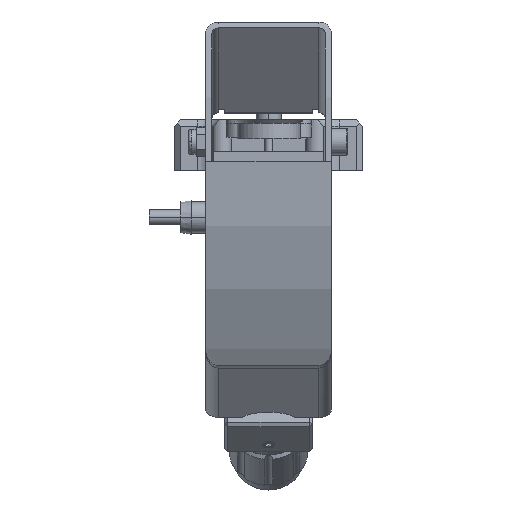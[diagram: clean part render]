
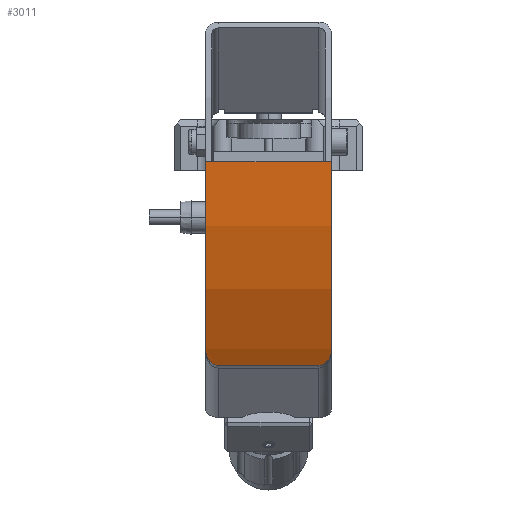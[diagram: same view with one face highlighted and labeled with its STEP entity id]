
A CAD part, front view. The second image highlights one B-rep face of the part: STEP entity #3011.
In plain terms, the highlighted cylindrical face has radius 131.5 mm (diameter 263 mm), a partial arc.
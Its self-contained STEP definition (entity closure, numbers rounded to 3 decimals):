
#365 = VECTOR ( 'NONE', #24075, 1000. ) ;
#762 = B_SPLINE_CURVE_WITH_KNOTS ( 'NONE', 3,
 ( #1239, #25185, #27345, #27511, #3874, #17943, #15794, #29196, #926, #27040, #5879, #29669, #8526, #19931, #12711, #1545, #6039, #22092, #15328, #24860 ),
 .UNSPECIFIED., .F., .F.,
 ( 4, 2, 2, 2, 2, 2, 2, 2, 2, 4 ),
 ( 0., 0.002, 0.003, 0.004, 0.005, 0.006, 0.006, 0.007, 0.007, 0.008 ),
 .UNSPECIFIED. ) ;
#926 = CARTESIAN_POINT ( 'NONE',  ( -18.738, -116.894, -60.671 ) ) ;
#1040 = CARTESIAN_POINT ( 'NONE',  ( 18.32, -116.644, -61.125 ) ) ;
#1239 = CARTESIAN_POINT ( 'NONE',  ( -20., -118.931, -56.813 ) ) ;
#1545 = CARTESIAN_POINT ( 'NONE',  ( -16.82, -116.158, -61.993 ) ) ;
#1559 = DIRECTION ( 'NONE',  ( 0., 0.94, -0.342 ) ) ;
#1698 = CARTESIAN_POINT ( 'NONE',  ( 20., -133.149, 2.635 ) ) ;
#2664 = ORIENTED_EDGE ( 'NONE', *, *, #25835, .T. ) ;
#3011 = ADVANCED_FACE ( 'NONE', ( #24755 ), #29718, .T. ) ;
#3465 = AXIS2_PLACEMENT_3D ( 'NONE', #22438, #3762, #8409 ) ;
#3762 = DIRECTION ( 'NONE',  ( -1., 0., 0. ) ) ;
#3874 = CARTESIAN_POINT ( 'NONE',  ( -19.605, -117.739, -59.109 ) ) ;
#4070 = EDGE_CURVE ( 'NONE', #18729, #25164, #7360, .T. ) ;
#5796 = CARTESIAN_POINT ( 'NONE',  ( -20., -118.931, -56.813 ) ) ;
#5879 = CARTESIAN_POINT ( 'NONE',  ( -18.092, -116.53, -61.329 ) ) ;
#6039 = CARTESIAN_POINT ( 'NONE',  ( -16.658, -116.135, -62.034 ) ) ;
#7060 = VERTEX_POINT ( 'NONE', #1698 ) ;
#7360 = B_SPLINE_CURVE_WITH_KNOTS ( 'NONE', 3,
 ( #12832, #22810, #22202, #11096, #8479, #22349, #1040, #10473, #19889, #20042, #17599, #26996, #29477, #8326, #15444, #24819 ),
 .UNSPECIFIED., .F., .F.,
 ( 4, 2, 2, 2, 2, 2, 2, 4 ),
 ( 0., 0.001, 0.002, 0.003, 0.004, 0.005, 0.006, 0.008 ),
 .UNSPECIFIED. ) ;
#7405 = EDGE_LOOP ( 'NONE', ( #15346, #10618, #2664, #17021, #12924, #8354 ) ) ;
#8030 = AXIS2_PLACEMENT_3D ( 'NONE', #25053, #8698, #18120 ) ;
#8326 = CARTESIAN_POINT ( 'NONE',  ( 19.925, -118.332, -57.985 ) ) ;
#8354 = ORIENTED_EDGE ( 'NONE', *, *, #30229, .T. ) ;
#8377 = CARTESIAN_POINT ( 'NONE',  ( -20., -1.649, 2.661 ) ) ;
#8409 = DIRECTION ( 'NONE',  ( 0., -0.94, 0.342 ) ) ;
#8479 = CARTESIAN_POINT ( 'NONE',  ( 17.565, -116.328, -61.691 ) ) ;
#8526 = CARTESIAN_POINT ( 'NONE',  ( -17.563, -116.334, -61.681 ) ) ;
#8698 = DIRECTION ( 'NONE',  ( -1., 0., 0. ) ) ;
#9012 = CIRCLE ( 'NONE', #8030, 131.5 ) ;
#9639 = DIRECTION ( 'NONE',  ( -1., 0., 0. ) ) ;
#10473 = CARTESIAN_POINT ( 'NONE',  ( 18.733, -116.891, -60.676 ) ) ;
#10618 = ORIENTED_EDGE ( 'NONE', *, *, #4070, .T. ) ;
#11096 = CARTESIAN_POINT ( 'NONE',  ( 17.28, -116.245, -61.838 ) ) ;
#12268 = EDGE_CURVE ( 'NONE', #19950, #21774, #21967, .T. ) ;
#12711 = CARTESIAN_POINT ( 'NONE',  ( -17.129, -116.217, -61.889 ) ) ;
#12832 = CARTESIAN_POINT ( 'NONE',  ( 16., -116.096, -62.102 ) ) ;
#12924 = ORIENTED_EDGE ( 'NONE', *, *, #12268, .F. ) ;
#14153 = LINE ( 'NONE', #28175, #16819 ) ;
#15213 = EDGE_CURVE ( 'NONE', #18729, #17004, #21760, .T. ) ;
#15328 = CARTESIAN_POINT ( 'NONE',  ( -16.167, -116.096, -62.102 ) ) ;
#15346 = ORIENTED_EDGE ( 'NONE', *, *, #15213, .F. ) ;
#15444 = CARTESIAN_POINT ( 'NONE',  ( 20., -118.632, -57.405 ) ) ;
#15794 = CARTESIAN_POINT ( 'NONE',  ( -19.237, -117.304, -59.92 ) ) ;
#16286 = CARTESIAN_POINT ( 'NONE',  ( -16., -116.096, -62.102 ) ) ;
#16819 = VECTOR ( 'NONE', #9639, 1000. ) ;
#17004 = VERTEX_POINT ( 'NONE', #16286 ) ;
#17021 = ORIENTED_EDGE ( 'NONE', *, *, #20072, .T. ) ;
#17599 = CARTESIAN_POINT ( 'NONE',  ( 19.37, -117.444, -59.661 ) ) ;
#17943 = CARTESIAN_POINT ( 'NONE',  ( -19.373, -117.446, -59.656 ) ) ;
#18120 = DIRECTION ( 'NONE',  ( 0., -0.94, 0.342 ) ) ;
#18729 = VERTEX_POINT ( 'NONE', #22650 ) ;
#19889 = CARTESIAN_POINT ( 'NONE',  ( 18.917, -117.026, -60.431 ) ) ;
#19931 = CARTESIAN_POINT ( 'NONE',  ( -17.277, -116.252, -61.826 ) ) ;
#19950 = VERTEX_POINT ( 'NONE', #5796 ) ;
#20042 = CARTESIAN_POINT ( 'NONE',  ( 19.235, -117.302, -59.924 ) ) ;
#20072 = EDGE_CURVE ( 'NONE', #7060, #21774, #14153, .T. ) ;
#20269 = DIRECTION ( 'NONE',  ( -1., 0., 0. ) ) ;
#21760 = LINE ( 'NONE', #22058, #365 ) ;
#21774 = VERTEX_POINT ( 'NONE', #25191 ) ;
#21967 = CIRCLE ( 'NONE', #25938, 131.5 ) ;
#22058 = CARTESIAN_POINT ( 'NONE',  ( 88.713, -116.096, -62.102 ) ) ;
#22092 = CARTESIAN_POINT ( 'NONE',  ( -16.333, -116.104, -62.088 ) ) ;
#22202 = CARTESIAN_POINT ( 'NONE',  ( 16.657, -116.127, -62.047 ) ) ;
#22349 = CARTESIAN_POINT ( 'NONE',  ( 18.089, -116.529, -61.331 ) ) ;
#22438 = CARTESIAN_POINT ( 'NONE',  ( 88.713, -1.649, 2.661 ) ) ;
#22650 = CARTESIAN_POINT ( 'NONE',  ( 16., -116.096, -62.102 ) ) ;
#22810 = CARTESIAN_POINT ( 'NONE',  ( 16.335, -116.096, -62.102 ) ) ;
#24075 = DIRECTION ( 'NONE',  ( -1., 0., 0. ) ) ;
#24755 = FACE_OUTER_BOUND ( 'NONE', #7405, .T. ) ;
#24819 = CARTESIAN_POINT ( 'NONE',  ( 20., -118.931, -56.813 ) ) ;
#24860 = CARTESIAN_POINT ( 'NONE',  ( -16., -116.096, -62.102 ) ) ;
#25053 = CARTESIAN_POINT ( 'NONE',  ( 20., -1.649, 2.661 ) ) ;
#25164 = VERTEX_POINT ( 'NONE', #26983 ) ;
#25185 = CARTESIAN_POINT ( 'NONE',  ( -20., -118.631, -57.405 ) ) ;
#25191 = CARTESIAN_POINT ( 'NONE',  ( -20., -133.149, 2.635 ) ) ;
#25835 = EDGE_CURVE ( 'NONE', #25164, #7060, #9012, .T. ) ;
#25938 = AXIS2_PLACEMENT_3D ( 'NONE', #8377, #20269, #1559 ) ;
#26983 = CARTESIAN_POINT ( 'NONE',  ( 20., -118.931, -56.813 ) ) ;
#26996 = CARTESIAN_POINT ( 'NONE',  ( 19.601, -117.733, -59.12 ) ) ;
#27040 = CARTESIAN_POINT ( 'NONE',  ( -18.322, -116.645, -61.123 ) ) ;
#27345 = CARTESIAN_POINT ( 'NONE',  ( -19.925, -118.333, -57.983 ) ) ;
#27511 = CARTESIAN_POINT ( 'NONE',  ( -19.7, -117.888, -58.829 ) ) ;
#28175 = CARTESIAN_POINT ( 'NONE',  ( 88.713, -133.149, 2.635 ) ) ;
#29196 = CARTESIAN_POINT ( 'NONE',  ( -18.92, -117.028, -60.427 ) ) ;
#29477 = CARTESIAN_POINT ( 'NONE',  ( 19.696, -117.882, -58.84 ) ) ;
#29669 = CARTESIAN_POINT ( 'NONE',  ( -17.701, -116.38, -61.598 ) ) ;
#29718 = CYLINDRICAL_SURFACE ( 'NONE', #3465, 131.5 ) ;
#30229 = EDGE_CURVE ( 'NONE', #19950, #17004, #762, .T. ) ;
